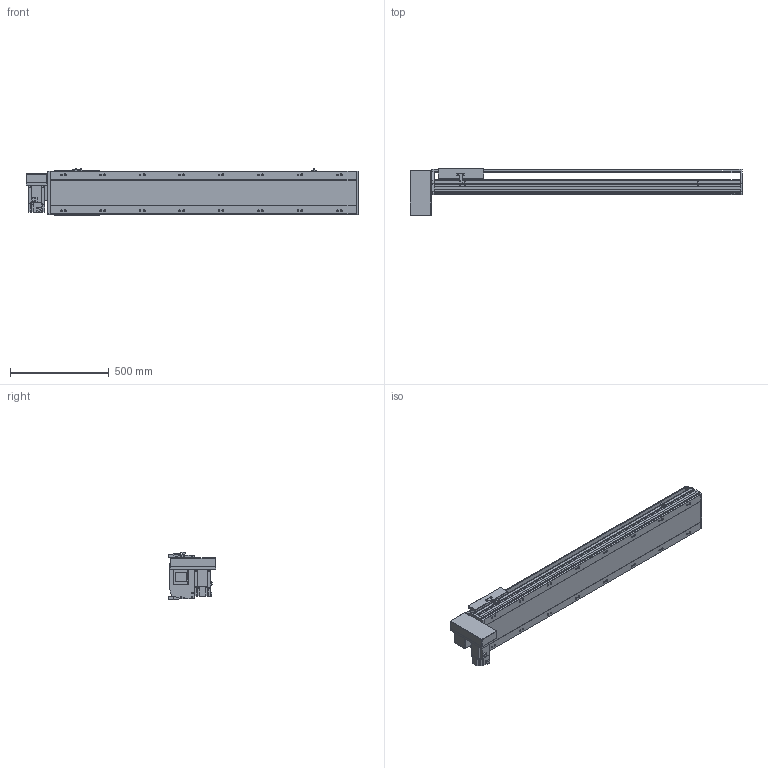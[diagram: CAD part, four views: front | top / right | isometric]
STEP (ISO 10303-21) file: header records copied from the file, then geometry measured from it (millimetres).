
FILE_DESCRIPTION(/* description */ ('STEP AP214'),/* implementation_level */ '2;1');
FILE_NAME(/* name */ 'PBS220-P40-S1200-RD-T75-C1-N(0)',/* time_stamp */ '2022-06-13T02:43:06+02:00',/* author */ ('License CC BY-ND 4.0'),/* organization */ ('CADENAS'),/* preprocessor_version */ 'ST-DEVELOPER v18.102',/* originating_system */ 'PARTsolutions',/* authorisation */ ' ');
FILE_SCHEMA (('AUTOMOTIVE_DESIGN {1 0 10303 214 3 1 1}'));
Length unit declared in the file: millimetre
Products named in the file (7): PBS220-P40-S1200-RD-T75-C1-N(0); PBS220_sensor; PBS220_plant; PBS220_sliser; T75-p1; PBS220T-RD_motors; PBS220-S1200()_body
Assembly tree (8 placements, depth 2):
  PBS220-P40-S1200-RD-T75-C1-N(0)
    PBS220_sensor  x3
    PBS220_plant
    PBS220_sliser
    T75-p1
    PBS220T-RD_motors
    PBS220-S1200()_body
Bounding box: 1684 x 239 x 238.5 mm (x, y, z)
Volume: 24155703.8 mm3; surface area: 2327982.5 mm2
Topology: 8 solids, 8 shells, 914 faces, 2396 edges, 1558 vertices
Faces by surface type: plane 598, cylinder 276, cone 40
Full cylindrical faces by diameter (mm): 2.013 x4, 4.5 x14, 4.917 x4, 6 x7, 6.647 x8, 8 x10, 8.376 x16, 8.5 x16, 10 x6, 14 x16, 38 x2, 40 x1, 70 x1
Entity records: 25629 total; most frequent: CARTESIAN_POINT 4492, DIRECTION 4455, ORIENTED_EDGE 4106, EDGE_CURVE 2053, AXIS2_PLACEMENT_3D 1555, VERTEX_POINT 1416, LINE 1345, VECTOR 1345
